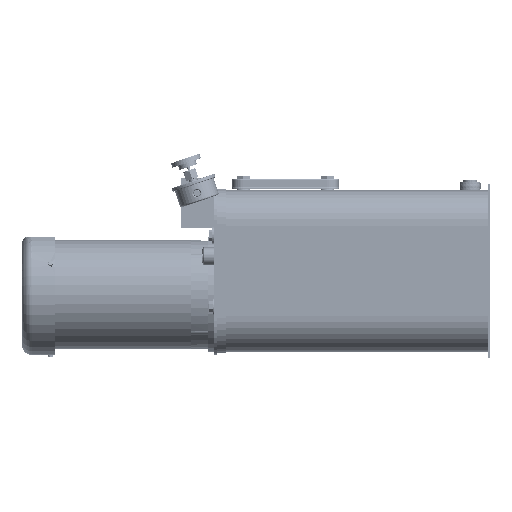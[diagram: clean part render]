
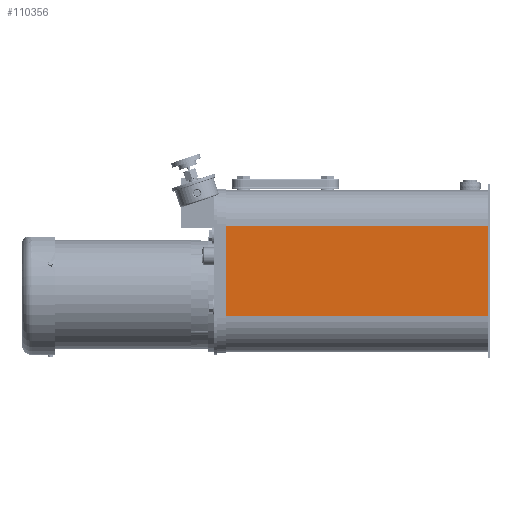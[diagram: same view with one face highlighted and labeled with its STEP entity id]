
A CAD part, top view. The second image highlights one B-rep face of the part: STEP entity #110356.
In plain terms, the highlighted planar face has unit normal (0, 0, 1).
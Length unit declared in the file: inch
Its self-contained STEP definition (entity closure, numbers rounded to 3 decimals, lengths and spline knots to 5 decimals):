
#24034 = EDGE_CURVE ( 'NONE', #149701, #72442, #427535, .T. ) ;
#33293 = DIRECTION ( 'NONE',  ( 0., 0., -1. ) ) ;
#45230 = EDGE_CURVE ( 'NONE', #149701, #319674, #77366, .T. ) ;
#61869 = EDGE_CURVE ( 'NONE', #319674, #199602, #127467, .T. ) ;
#72442 = VERTEX_POINT ( 'NONE', #319873 ) ;
#77366 = LINE ( 'NONE', #309799, #382726 ) ;
#81582 = CARTESIAN_POINT ( 'NONE',  ( 4.60145, 5.67649, 15.4903 ) ) ;
#87821 = PLANE ( 'NONE',  #166215 ) ;
#109698 = VECTOR ( 'NONE', #125020, 39.37008 ) ;
#110356 = ADVANCED_FACE ( 'NONE', ( #475900 ), #87821, .F. ) ;
#119756 = VECTOR ( 'NONE', #389755, 39.37008 ) ;
#125020 = DIRECTION ( 'NONE',  ( 0., -1., 0. ) ) ;
#127467 = LINE ( 'NONE', #281526, #327549 ) ;
#149701 = VERTEX_POINT ( 'NONE', #311840 ) ;
#158715 = CARTESIAN_POINT ( 'NONE',  ( 4.60145, 13.18189, 15.4903 ) ) ;
#166215 = AXIS2_PLACEMENT_3D ( 'NONE', #158715, #33293, #315179 ) ;
#199602 = VERTEX_POINT ( 'NONE', #340492 ) ;
#224807 = ORIENTED_EDGE ( 'NONE', *, *, #61869, .F. ) ;
#276633 = LINE ( 'NONE', #357314, #109698 ) ;
#281526 = CARTESIAN_POINT ( 'NONE',  ( 4.60145, 11.06229, 15.4903 ) ) ;
#298777 = EDGE_LOOP ( 'NONE', ( #413919, #224807, #377239, #495415 ) ) ;
#309799 = CARTESIAN_POINT ( 'NONE',  ( 4.60145, 13.18189, 15.4903 ) ) ;
#311840 = CARTESIAN_POINT ( 'NONE',  ( 4.60145, 5.67649, 15.4903 ) ) ;
#315179 = DIRECTION ( 'NONE',  ( 0., -1., 0. ) ) ;
#319674 = VERTEX_POINT ( 'NONE', #447162 ) ;
#319873 = CARTESIAN_POINT ( 'NONE',  ( 20.60145, 5.67649, 15.4903 ) ) ;
#327549 = VECTOR ( 'NONE', #371531, 39.37008 ) ;
#340492 = CARTESIAN_POINT ( 'NONE',  ( 20.60145, 11.06229, 15.4903 ) ) ;
#357314 = CARTESIAN_POINT ( 'NONE',  ( 20.60145, 8.36939, 15.4903 ) ) ;
#371531 = DIRECTION ( 'NONE',  ( 1., 0., 0. ) ) ;
#377239 = ORIENTED_EDGE ( 'NONE', *, *, #45230, .F. ) ;
#380683 = DIRECTION ( 'NONE',  ( 0., 1., 0. ) ) ;
#382726 = VECTOR ( 'NONE', #380683, 39.37008 ) ;
#389755 = DIRECTION ( 'NONE',  ( 1., 0., 0. ) ) ;
#413919 = ORIENTED_EDGE ( 'NONE', *, *, #430115, .F. ) ;
#427535 = LINE ( 'NONE', #81582, #119756 ) ;
#430115 = EDGE_CURVE ( 'NONE', #199602, #72442, #276633, .T. ) ;
#447162 = CARTESIAN_POINT ( 'NONE',  ( 4.60145, 11.06229, 15.4903 ) ) ;
#475900 = FACE_OUTER_BOUND ( 'NONE', #298777, .T. ) ;
#495415 = ORIENTED_EDGE ( 'NONE', *, *, #24034, .T. ) ;
